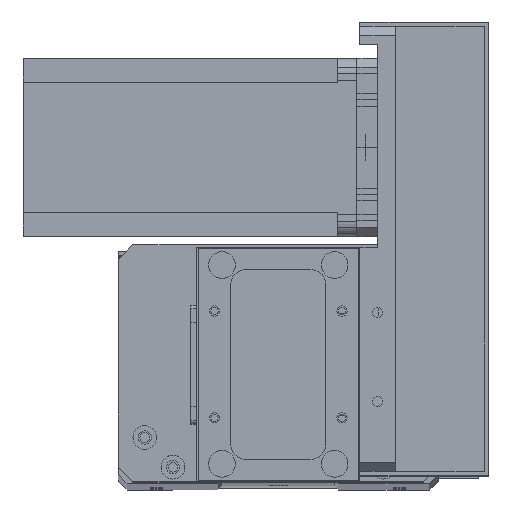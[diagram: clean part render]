
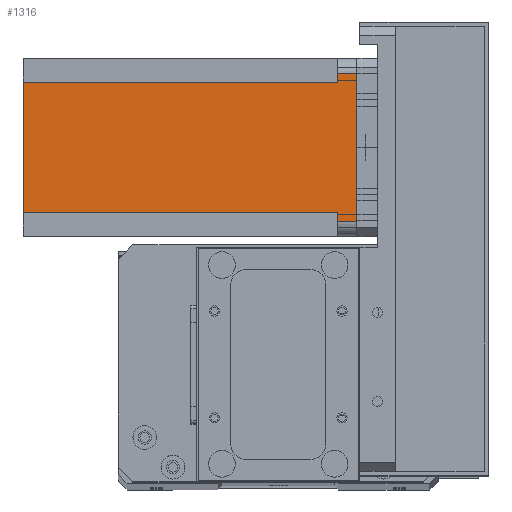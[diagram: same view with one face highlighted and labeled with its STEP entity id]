
A CAD part, top view. The second image highlights one B-rep face of the part: STEP entity #1316.
In plain terms, the highlighted planar face has unit normal (0, 0, 1) as drawn and (0, 1, 0) by its records, which use the part's own axes.
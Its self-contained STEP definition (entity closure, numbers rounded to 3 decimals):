
#266 = VECTOR ( 'NONE', #9072, 1000. ) ;
#292 = EDGE_CURVE ( 'NONE', #24978, #28185, #20688, .T. ) ;
#643 = DIRECTION ( 'NONE',  ( -1., 0., 0. ) ) ;
#747 = DIRECTION ( 'NONE',  ( 1., 0., 0. ) ) ;
#1316 = ADVANCED_FACE ( 'NONE', ( #7966 ), #9426, .T. ) ;
#2774 = ORIENTED_EDGE ( 'NONE', *, *, #16299, .F. ) ;
#3580 = VECTOR ( 'NONE', #15487, 1000. ) ;
#3838 = LINE ( 'NONE', #4776, #28470 ) ;
#4316 = VERTEX_POINT ( 'NONE', #25639 ) ;
#4354 = EDGE_CURVE ( 'NONE', #7659, #28185, #12264, .T. ) ;
#4679 = CARTESIAN_POINT ( 'NONE',  ( 55., 60., -6.5 ) ) ;
#4776 = CARTESIAN_POINT ( 'NONE',  ( 55., 60., -112.5 ) ) ;
#4783 = VERTEX_POINT ( 'NONE', #4679 ) ;
#5126 = ORIENTED_EDGE ( 'NONE', *, *, #25508, .T. ) ;
#5745 = VECTOR ( 'NONE', #747, 1000. ) ;
#5821 = EDGE_CURVE ( 'NONE', #4316, #29999, #28238, .T. ) ;
#6336 = LINE ( 'NONE', #29269, #11937 ) ;
#6418 = EDGE_LOOP ( 'NONE', ( #25421, #24418, #6568, #26375, #30730, #2774, #5126, #12436 ) ) ;
#6511 = LINE ( 'NONE', #15062, #5745 ) ;
#6568 = ORIENTED_EDGE ( 'NONE', *, *, #28315, .F. ) ;
#7129 = CARTESIAN_POINT ( 'NONE',  ( 5., 60., -112.5 ) ) ;
#7659 = VERTEX_POINT ( 'NONE', #17339 ) ;
#7966 = FACE_OUTER_BOUND ( 'NONE', #6418, .T. ) ;
#8259 = VECTOR ( 'NONE', #13869, 1000. ) ;
#8806 = VECTOR ( 'NONE', #16623, 1000. ) ;
#9072 = DIRECTION ( 'NONE',  ( -1., 0., 0. ) ) ;
#9426 = PLANE ( 'NONE',  #26309 ) ;
#9583 = CARTESIAN_POINT ( 'NONE',  ( 5., 60., -6.5 ) ) ;
#9721 = CARTESIAN_POINT ( 'NONE',  ( 5., 60., 0. ) ) ;
#11805 = DIRECTION ( 'NONE',  ( 0., 1., 0. ) ) ;
#11876 = EDGE_CURVE ( 'NONE', #4316, #18858, #6336, .T. ) ;
#11937 = VECTOR ( 'NONE', #643, 1000. ) ;
#12264 = LINE ( 'NONE', #30562, #266 ) ;
#12436 = ORIENTED_EDGE ( 'NONE', *, *, #292, .T. ) ;
#13869 = DIRECTION ( 'NONE',  ( -1., 0., 0. ) ) ;
#15062 = CARTESIAN_POINT ( 'NONE',  ( 52., 60., -6.5 ) ) ;
#15419 = EDGE_CURVE ( 'NONE', #7659, #4783, #3838, .T. ) ;
#15487 = DIRECTION ( 'NONE',  ( 0., 0., 1. ) ) ;
#16299 = EDGE_CURVE ( 'NONE', #19242, #18858, #23558, .T. ) ;
#16623 = DIRECTION ( 'NONE',  ( 0., 0., 1. ) ) ;
#16734 = DIRECTION ( 'NONE',  ( 0., 0., -1. ) ) ;
#17177 = VECTOR ( 'NONE', #25341, 1000. ) ;
#17339 = CARTESIAN_POINT ( 'NONE',  ( 55., 60., 0. ) ) ;
#18249 = CARTESIAN_POINT ( 'NONE',  ( 8., 60., -112.5 ) ) ;
#18858 = VERTEX_POINT ( 'NONE', #20159 ) ;
#19242 = VERTEX_POINT ( 'NONE', #29052 ) ;
#20159 = CARTESIAN_POINT ( 'NONE',  ( 8., 60., -112.5 ) ) ;
#20688 = LINE ( 'NONE', #7129, #8806 ) ;
#23558 = LINE ( 'NONE', #18249, #17177 ) ;
#24368 = CARTESIAN_POINT ( 'NONE',  ( 52., 60., -6.5 ) ) ;
#24418 = ORIENTED_EDGE ( 'NONE', *, *, #15419, .T. ) ;
#24978 = VERTEX_POINT ( 'NONE', #9583 ) ;
#25341 = DIRECTION ( 'NONE',  ( 0., 0., -1. ) ) ;
#25421 = ORIENTED_EDGE ( 'NONE', *, *, #4354, .F. ) ;
#25508 = EDGE_CURVE ( 'NONE', #19242, #24978, #26530, .T. ) ;
#25639 = CARTESIAN_POINT ( 'NONE',  ( 52., 60., -112.5 ) ) ;
#26082 = CARTESIAN_POINT ( 'NONE',  ( 0., 60., -112.5 ) ) ;
#26309 = AXIS2_PLACEMENT_3D ( 'NONE', #26082, #11805, #28474 ) ;
#26375 = ORIENTED_EDGE ( 'NONE', *, *, #5821, .F. ) ;
#26530 = LINE ( 'NONE', #30604, #8259 ) ;
#28185 = VERTEX_POINT ( 'NONE', #9721 ) ;
#28238 = LINE ( 'NONE', #29813, #3580 ) ;
#28315 = EDGE_CURVE ( 'NONE', #29999, #4783, #6511, .T. ) ;
#28470 = VECTOR ( 'NONE', #16734, 1000. ) ;
#28474 = DIRECTION ( 'NONE',  ( 0., 0., 1. ) ) ;
#29052 = CARTESIAN_POINT ( 'NONE',  ( 8., 60., -6.5 ) ) ;
#29269 = CARTESIAN_POINT ( 'NONE',  ( 0., 60., -112.5 ) ) ;
#29813 = CARTESIAN_POINT ( 'NONE',  ( 52., 60., -112.5 ) ) ;
#29999 = VERTEX_POINT ( 'NONE', #24368 ) ;
#30562 = CARTESIAN_POINT ( 'NONE',  ( 0., 60., 0. ) ) ;
#30604 = CARTESIAN_POINT ( 'NONE',  ( 8., 60., -6.5 ) ) ;
#30730 = ORIENTED_EDGE ( 'NONE', *, *, #11876, .T. ) ;
